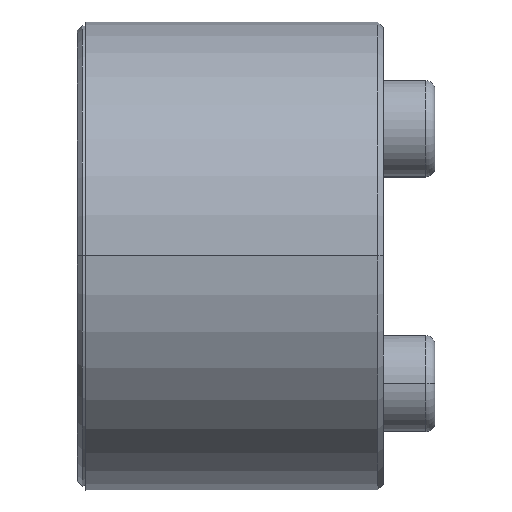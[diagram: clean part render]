
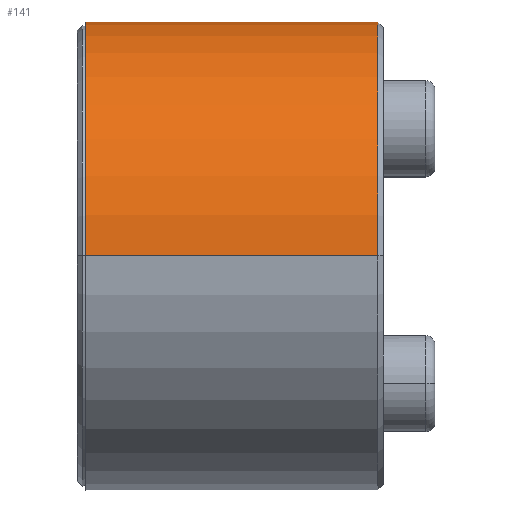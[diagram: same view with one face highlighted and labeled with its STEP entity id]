
A CAD part, top view. The second image highlights one B-rep face of the part: STEP entity #141.
In plain terms, the highlighted cylindrical face has radius 13 mm (diameter 26 mm), a partial arc.
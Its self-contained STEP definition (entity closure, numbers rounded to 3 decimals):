
#141 = ADVANCED_FACE ( 'NONE', ( #150 ), #1498, .T. ) ;
#150 = FACE_OUTER_BOUND ( 'NONE', #2654, .T. ) ;
#272 = LINE ( 'NONE', #3338, #533 ) ;
#533 = VECTOR ( 'NONE', #949, 1000. ) ;
#681 = DIRECTION ( 'NONE',  ( 0., -0.997, 0.077 ) ) ;
#824 = DIRECTION ( 'NONE',  ( 0., -0.997, 0.077 ) ) ;
#858 = EDGE_CURVE ( 'NONE', #983, #1459, #4157, .T. ) ;
#890 = ORIENTED_EDGE ( 'NONE', *, *, #2709, .F. ) ;
#949 = DIRECTION ( 'NONE',  ( 1., 0., 0. ) ) ;
#983 = VERTEX_POINT ( 'NONE', #2439 ) ;
#1083 = AXIS2_PLACEMENT_3D ( 'NONE', #2897, #1191, #824 ) ;
#1136 = CARTESIAN_POINT ( 'NONE',  ( 0.483, 0., -13. ) ) ;
#1191 = DIRECTION ( 'NONE',  ( -1., 0., 0. ) ) ;
#1459 = VERTEX_POINT ( 'NONE', #3357 ) ;
#1475 = DIRECTION ( 'NONE',  ( 1., 0., 0. ) ) ;
#1498 = CYLINDRICAL_SURFACE ( 'NONE', #3159, 13. ) ;
#1517 = CARTESIAN_POINT ( 'NONE',  ( 0.483, 0., 0. ) ) ;
#1529 = EDGE_CURVE ( 'NONE', #2426, #983, #272, .T. ) ;
#2071 = CIRCLE ( 'NONE', #1083, 13. ) ;
#2392 = VERTEX_POINT ( 'NONE', #3279 ) ;
#2426 = VERTEX_POINT ( 'NONE', #3642 ) ;
#2439 = CARTESIAN_POINT ( 'NONE',  ( 16.683, 0., 13. ) ) ;
#2654 = EDGE_LOOP ( 'NONE', ( #3353, #890, #3057, #3101 ) ) ;
#2709 = EDGE_CURVE ( 'NONE', #2426, #2392, #2071, .T. ) ;
#2752 = CARTESIAN_POINT ( 'NONE',  ( 16.683, 0., 0. ) ) ;
#2802 = AXIS2_PLACEMENT_3D ( 'NONE', #2752, #3024, #681 ) ;
#2833 = DIRECTION ( 'NONE',  ( 1., 0., 0. ) ) ;
#2835 = DIRECTION ( 'NONE',  ( 0., 0., 1. ) ) ;
#2897 = CARTESIAN_POINT ( 'NONE',  ( 0.483, 0., 0. ) ) ;
#3024 = DIRECTION ( 'NONE',  ( -1., 0., 0. ) ) ;
#3057 = ORIENTED_EDGE ( 'NONE', *, *, #1529, .T. ) ;
#3101 = ORIENTED_EDGE ( 'NONE', *, *, #858, .T. ) ;
#3159 = AXIS2_PLACEMENT_3D ( 'NONE', #1517, #1475, #2835 ) ;
#3279 = CARTESIAN_POINT ( 'NONE',  ( 0.483, 0., -13. ) ) ;
#3338 = CARTESIAN_POINT ( 'NONE',  ( 0.483, 0., 13. ) ) ;
#3353 = ORIENTED_EDGE ( 'NONE', *, *, #4288, .F. ) ;
#3357 = CARTESIAN_POINT ( 'NONE',  ( 16.683, 0., -13. ) ) ;
#3642 = CARTESIAN_POINT ( 'NONE',  ( 0.483, 0., 13. ) ) ;
#4070 = VECTOR ( 'NONE', #2833, 1000. ) ;
#4149 = LINE ( 'NONE', #1136, #4070 ) ;
#4157 = CIRCLE ( 'NONE', #2802, 13. ) ;
#4288 = EDGE_CURVE ( 'NONE', #2392, #1459, #4149, .T. ) ;
